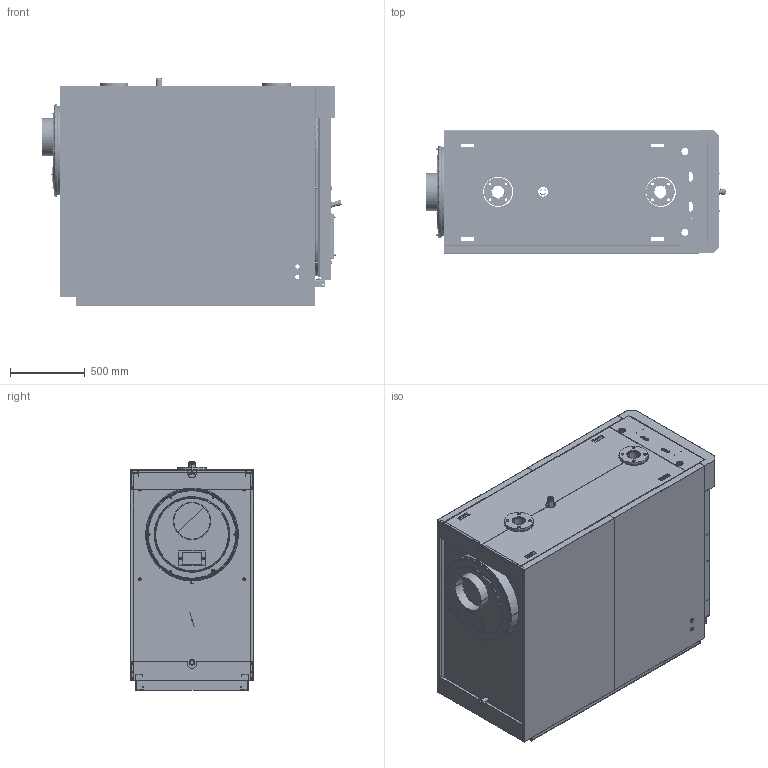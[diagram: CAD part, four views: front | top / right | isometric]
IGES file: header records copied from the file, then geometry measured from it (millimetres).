
Start section: START RECORD GO HERE.
Global section: file name: 20033209  + Pannellatura x 3D.igs; native system: DASSAULT SYSTEMES CATIA V5 R20 - www.3ds.com; preprocessor: CATIA Version 5 Release 20 SP 6 ; author: Riello S.p.A.; organization: RIELLO-IT; date: 20170612.122535; units: millimetre
Bounding box: 2002.13 x 820 x 1525 mm (x, y, z)
Surface area: 30723396.6 mm2 (no closed solid volume)
Topology: 0 solids, 0 shells, 6126 faces, 29527 edges, 29483 vertices
Faces by surface type: plane 3552, revolution 2341, bspline 233
